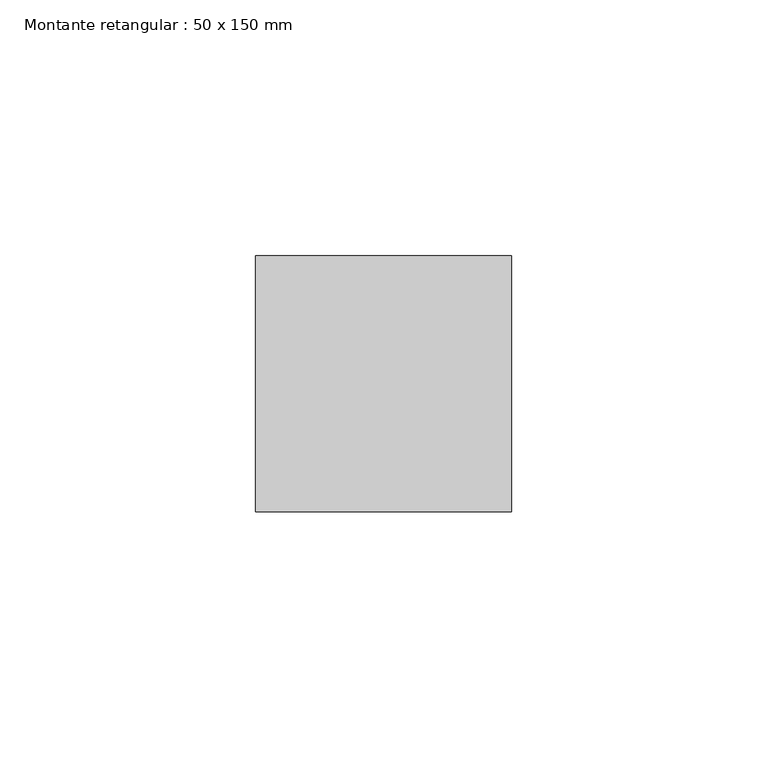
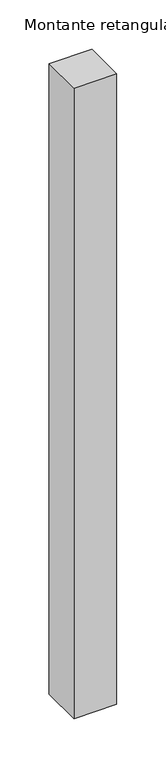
"""IFC4 building model written with IfcOpenShell, lengths in millimetres: member geometry, Montante retangular : 50 x 150 mm."""

from ifc_helpers import new_model, si_unit, frame, origin, place, context, project, spatial, polyline, outline, extrude, source, transform, mapped, element, save


def montante_retangular_50_x_150_mm_eb905c36(model_context):
    return source(origin(), model_context, "Body", "SweptSolid", [
        extrude(outline(polyline([(25.0, 25.0), (25.0, -25.0), (-25.0, -25.0), (-25.0, 25.0), (25.0, 25.0)])), frame((0.0, 0.0, -780.0), z_axis=(0.0, 0.0, 1.0), x_axis=(1.0, 0.0, 0.0)), (0.0, 0.0, 1.0), 780.0),
    ])


if __name__ == "__main__":
    model = new_model("IFC4")
    model_context = context("Model", 3, world=origin())
    ifc_project = project(units=[si_unit("LENGTHUNIT", "METRE", prefix="MILLI")], contexts=[model_context])
    site = spatial("IfcSite", under=ifc_project)
    building = spatial("IfcBuilding", under=site)
    placement = place(None, origin())
    montante_retangular_50_x_150_mm_shape = montante_retangular_50_x_150_mm_eb905c36(model_context)
    element("IfcMember", 1, ObjectType="Montante retangular : 50 x 150 mm", at=placement, inside=building, context=model_context, shape_type="MappedRepresentation", body=[
        mapped(montante_retangular_50_x_150_mm_shape, transform((0.0, 0.0, 0.0), x_axis=(1.0, 0.0, 0.0), y_axis=(0.0, 1.0, 0.0), z_axis=(0.0, 0.0, 1.0))),
    ])
    save(model, "model.ifc")
